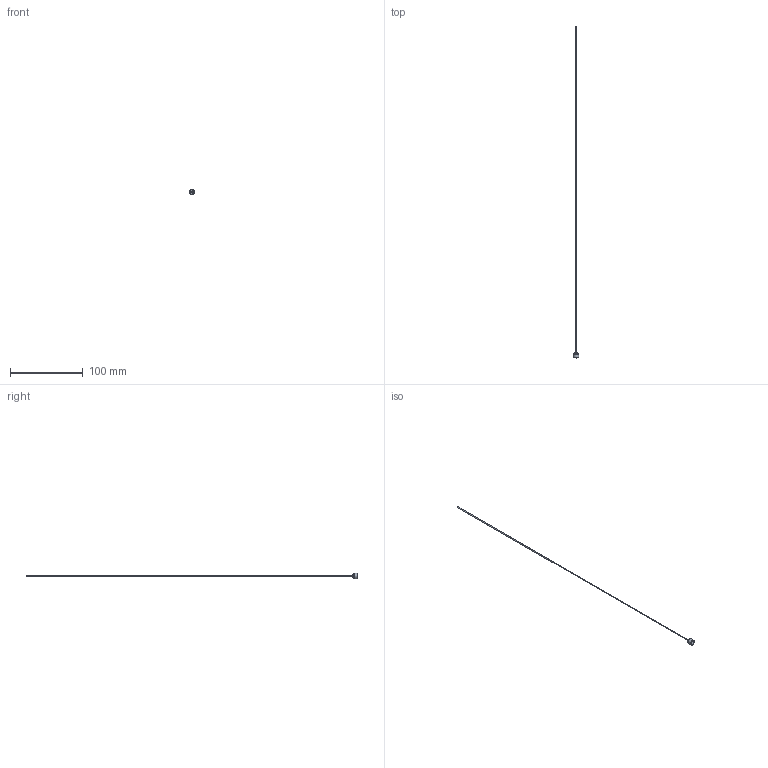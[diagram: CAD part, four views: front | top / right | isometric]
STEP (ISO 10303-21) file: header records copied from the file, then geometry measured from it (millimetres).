
FILE_DESCRIPTION(/* description */ (''),/* implementation_level */ '2;1');
FILE_NAME(/* name */ 'C:/Users/drich/Desktop/cad/Cascades/Jet Cool/Components/Inner Tubes/PT16-050/PT16-050-18 v2.step',/* time_stamp */ '2020-01-10T15:10:13-06:00',/* author */ (''),/* organization */ (''),/* preprocessor_version */ 'ST-DEVELOPER v18',/* originating_system */ 'Autodesk Translation Framework v8.12.0.6',/* authorisation */ '');
FILE_SCHEMA (('AUTOMOTIVE_DESIGN { 1 0 10303 214 3 1 1 }'));
Length unit declared in the file: inch
Products named in the file (1): PT16-050-18
Bounding box: 7.62 x 457.2 x 7.62 mm (x, y, z)
Volume: 409.9 mm3; surface area: 3604.3 mm2
Topology: 1 solids, 1 shells, 19 faces, 48 edges, 34 vertices
Faces by surface type: plane 11, cylinder 4, torus 2, cone 2
Full cylindrical faces by diameter (mm): 1.067 x1, 1.27 x1, 4.724 x1, 7.616 x1
Entity records: 633 total; most frequent: DIRECTION 112, CARTESIAN_POINT 102, ORIENTED_EDGE 96, EDGE_CURVE 48, AXIS2_PLACEMENT_3D 44, VERTEX_POINT 34, CIRCLE 24, EDGE_LOOP 24
